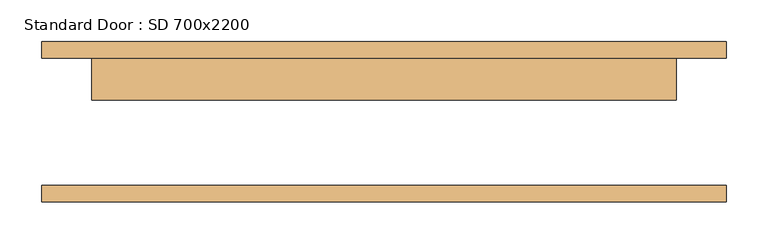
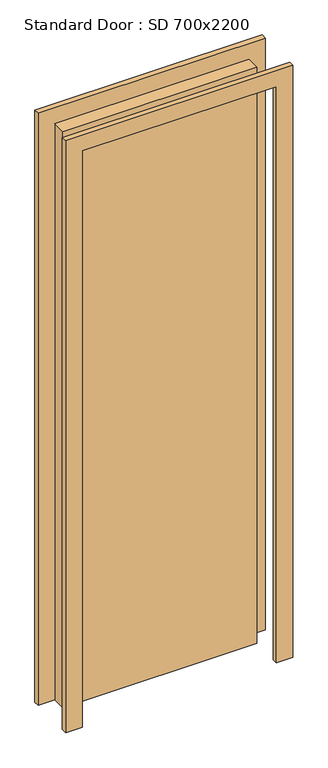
"""IFC4 building model written with IfcOpenShell, lengths in millimetres: door geometry, Standard Door : SD 700x2200."""

from ifc_helpers import new_model, si_unit, frame, origin, origin_with_axes, place, context, project, spatial, polyline, outline, extrude, source, transform, mapped, element, save


def standard_door_sd_700x2200_ba594e27(model_context):
    return source(origin(), model_context, "Body", "SweptSolid", [
        extrude(outline(polyline([(2260.0, -410.0), (0.0, -410.0), (0.0, -350.0), (2200.0, -350.0), (2200.0, 350.0), (0.0, 350.0), (0.0, 410.0), (2260.0, 410.0), (2260.0, -410.0)])), frame((0.0, 76.2, 0.0), z_axis=(0.0, 1.0, 0.0), x_axis=(0.0, 0.0, 1.0)), (0.0, 0.0, 1.0), 20.0),
        extrude(outline(polyline([(2260.0, 410.0), (2260.0, -410.0), (0.0, -410.0), (0.0, -350.0), (2200.0, -350.0), (2200.0, 350.0), (0.0, 350.0), (0.0, 410.0), (2260.0, 410.0)])), frame((0.0, -96.2, 0.0), z_axis=(0.0, 1.0, 0.0), x_axis=(0.0, 0.0, 1.0)), (0.0, 0.0, 1.0), 20.0),
        extrude(outline(polyline([(350.0, 26.2), (-350.0, 26.2), (-350.0, 76.2), (350.0, 76.2), (350.0, 26.2)])), origin_with_axes(), (0.0, 0.0, 1.0), 2200.0),
    ])


if __name__ == "__main__":
    model = new_model("IFC4")
    model_context = context("Model", 3, world=origin())
    ifc_project = project(units=[si_unit("LENGTHUNIT", "METRE", prefix="MILLI")], contexts=[model_context])
    site = spatial("IfcSite", under=ifc_project)
    building = spatial("IfcBuilding", under=site)
    placement = place(None, origin())
    standard_door_sd_700x2200_shape = standard_door_sd_700x2200_ba594e27(model_context)
    element("IfcDoor", 1, ObjectType="Standard Door : SD 700x2200", at=placement, inside=building, context=model_context, shape_type="MappedRepresentation", body=[
        mapped(standard_door_sd_700x2200_shape, transform((0.0, 0.0, 0.0), x_axis=(1.0, 0.0, 0.0), y_axis=(0.0, 1.0, 0.0), z_axis=(0.0, 0.0, 1.0))),
    ])
    save(model, "model.ifc")
